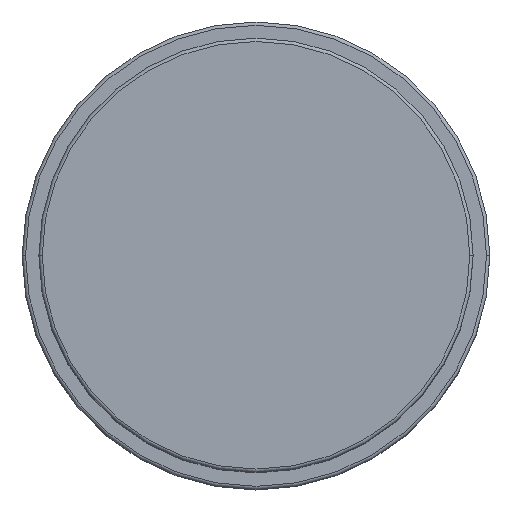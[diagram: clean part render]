
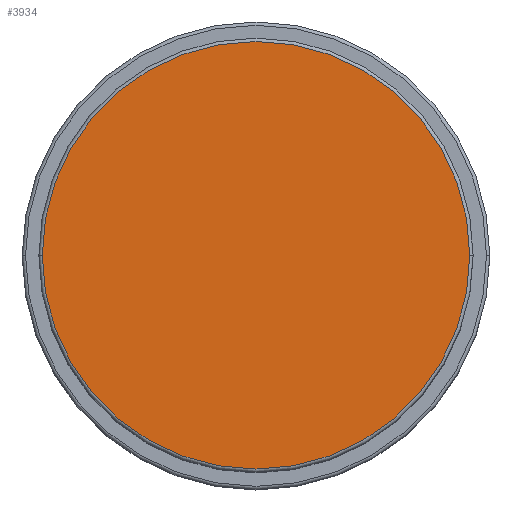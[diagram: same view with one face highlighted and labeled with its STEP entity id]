
A CAD part, top view. The second image highlights one B-rep face of the part: STEP entity #3934.
In plain terms, the highlighted planar face has unit normal (0, 0, 1).
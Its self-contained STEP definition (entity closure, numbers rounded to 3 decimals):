
#378 = DIRECTION ( 'NONE',  ( 0., 0., 1. ) ) ;
#580 = AXIS2_PLACEMENT_3D ( 'NONE', #3765, #378, #2899 ) ;
#1243 = CARTESIAN_POINT ( 'NONE',  ( -32., 0., 77. ) ) ;
#1540 = CARTESIAN_POINT ( 'NONE',  ( 0., 0., 77. ) ) ;
#2238 = FACE_OUTER_BOUND ( 'NONE', #3833, .T. ) ;
#2302 = DIRECTION ( 'NONE',  ( 1., 0., 0. ) ) ;
#2345 = ORIENTED_EDGE ( 'NONE', *, *, #3443, .T. ) ;
#2465 = CARTESIAN_POINT ( 'NONE',  ( 0., 0., 77. ) ) ;
#2514 = CIRCLE ( 'NONE', #4765, 32. ) ;
#2715 = ORIENTED_EDGE ( 'NONE', *, *, #5063, .T. ) ;
#2899 = DIRECTION ( 'NONE',  ( 1., 0., 0. ) ) ;
#2923 = DIRECTION ( 'NONE',  ( 0., 0., 1. ) ) ;
#3443 = EDGE_CURVE ( 'NONE', #4958, #4237, #4001, .T. ) ;
#3499 = CARTESIAN_POINT ( 'NONE',  ( 32., 0., 77. ) ) ;
#3760 = DIRECTION ( 'NONE',  ( 1., 0., 0. ) ) ;
#3765 = CARTESIAN_POINT ( 'NONE',  ( 0., 0., 77. ) ) ;
#3833 = EDGE_LOOP ( 'NONE', ( #2715, #2345 ) ) ;
#3934 = ADVANCED_FACE ( 'NONE', ( #2238 ), #4387, .T. ) ;
#4001 = CIRCLE ( 'NONE', #580, 32. ) ;
#4237 = VERTEX_POINT ( 'NONE', #3499 ) ;
#4387 = PLANE ( 'NONE',  #4516 ) ;
#4516 = AXIS2_PLACEMENT_3D ( 'NONE', #1540, #5221, #2302 ) ;
#4765 = AXIS2_PLACEMENT_3D ( 'NONE', #2465, #2923, #3760 ) ;
#4958 = VERTEX_POINT ( 'NONE', #1243 ) ;
#5063 = EDGE_CURVE ( 'NONE', #4237, #4958, #2514, .T. ) ;
#5221 = DIRECTION ( 'NONE',  ( 0., 0., 1. ) ) ;
